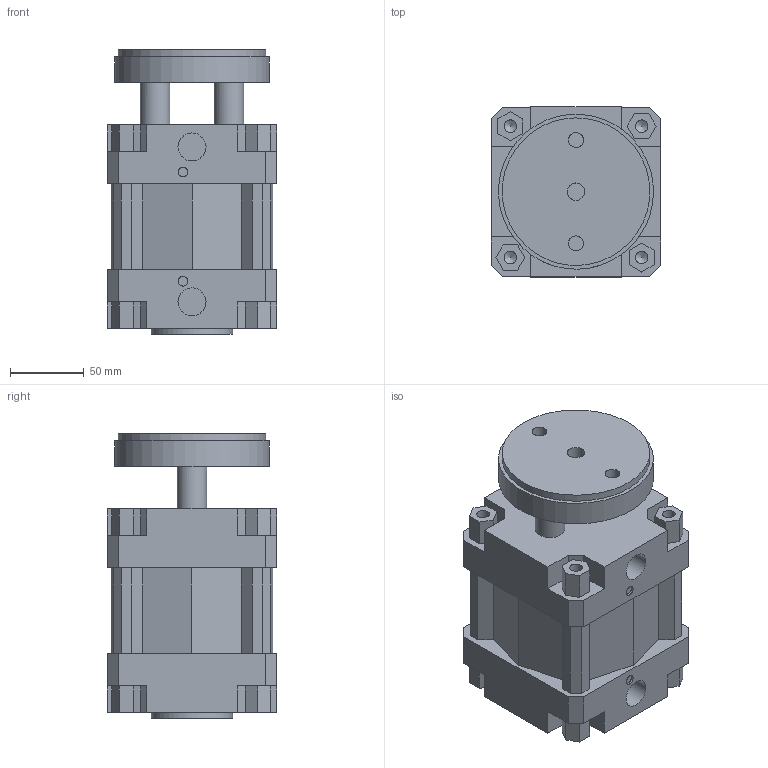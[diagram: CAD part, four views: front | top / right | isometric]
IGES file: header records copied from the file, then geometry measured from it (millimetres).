
Global section: file name: 132#_100_0000_01; native system: Autodesk Inventor 2014; preprocessor: unknown; author: A. Manieri; date: 20161006.163548; units: millimetre
Bounding box: 115 x 115 x 193 mm (x, y, z)
Volume: 1777100.8 mm3; surface area: 214511.2 mm2
Topology: 2 solids, 2 shells, 180 faces, 491 edges, 335 vertices
Faces by surface type: bspline 180
